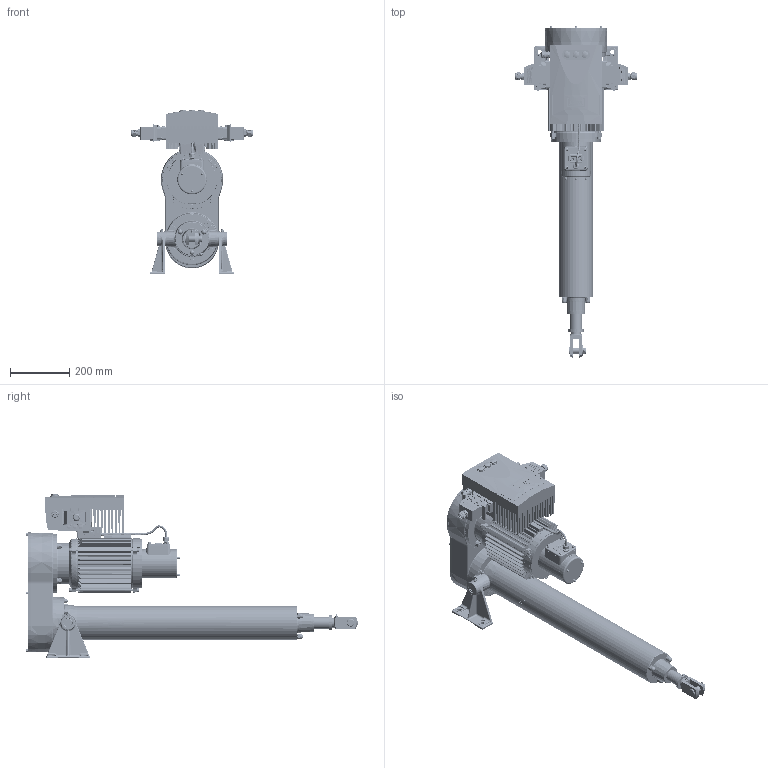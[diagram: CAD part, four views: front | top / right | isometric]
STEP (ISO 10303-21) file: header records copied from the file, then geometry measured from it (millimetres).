
FILE_DESCRIPTION( ( '153-599-4' ), '1' );
FILE_NAME( 'C:/daten/bearbeitung katalogbilder/RBs rendern/austausch pomplun/mit identnr/T1C5-RM-0600-160-253-5.stp', 'Unknown', ( 'Christoph Hahmann' ), ( 'RACO-ELEKTRO-MASCHINEN GmbH' ), 'PSStep 17.0.49', 'Solid Edge ST 7', ' ' );
FILE_SCHEMA( ( 'AUTOMOTIVE_DESIGN { 1 0 10303 214 1 1 1 1 }' ) );
Length unit declared in the file: millimetre
Products named in the file (18): Assem1; 03.01-05; 02.14-05-0600; 01.15-05-0600; 02.01-05 kpl; 01.01-05-Gabelkopf; 12.00-06 kpl.; Kabel zu Motor 100L8; 03.65-05 kpl; 100L8-143-737-2 mit Adapter; Gehäuse A2- CAN; 157-713-1-3; 10.5-100-529-4; 10-101-443-9; BG2-155-450-6-kpl; 10x40-101-465-0; 10x40-156-797-7; 10-100-990-7
Assembly tree (29 placements, depth 2):
  Assem1
    03.01-05
    02.14-05-0600
    01.15-05-0600
    02.01-05 kpl
    01.01-05-Gabelkopf
    12.00-06 kpl.
    Kabel zu Motor 100L8
    03.65-05 kpl
    100L8-143-737-2 mit Adapter
    Gehäuse A2- CAN
    157-713-1-3
    10.5-100-529-4  x4
    10-101-443-9  x4
    BG2-155-450-6-kpl
    10x40-101-465-0
    10x40-156-797-7  x4
    10-100-990-7  x4
Bounding box: 412.49 x 1120.58 x 556.05 mm (x, y, z)
Surface area: 2584132.2 mm2 (no closed solid volume)
Topology: 0 solids, 9918 shells, 9934 faces, 49879 edges, 48846 vertices
Faces by surface type: plane 5122, cylinder 2540, cone 854, bspline 694, torus 430, sphere 259, extrusion 35
Full cylindrical faces by diameter (mm): 1.6 x2, 2 x1, 2.6 x1, 3 x29, 3.141 x8, 3.242 x24, 4 x27, 4.134 x16, 4.4 x8, 4.5 x12, 4.917 x1, 5 x34, 5.3 x3, 5.5 x9, 5.7 x7, 6 x5, 6.466 x6, 6.647 x12, 6.917 x2, 7 x9, 7.5 x3, 7.6 x8, 8 x28, 8.15 x1, 8.16 x5, 8.2 x1, 8.376 x12, 8.4 x2, 8.5 x4, 8.566 x2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
Entity records: 714864 total; most frequent: CARTESIAN_POINT 276606, DIRECTION 76191, VERTEX_POINT 47745, ORIENTED_EDGE 47680, EDGE_CURVE 47680, VECTOR 25483, LINE 25448, AXIS2_PLACEMENT_3D 25354
